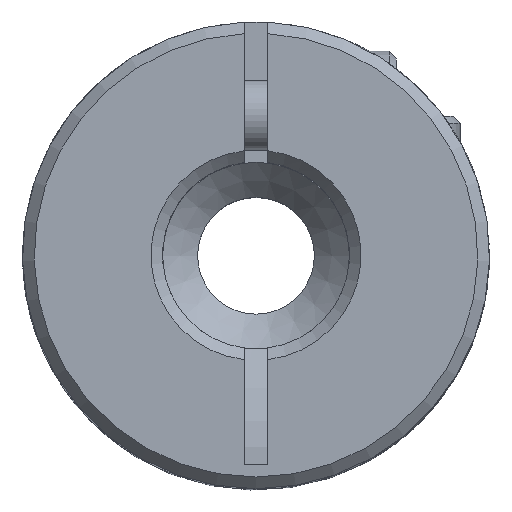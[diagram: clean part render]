
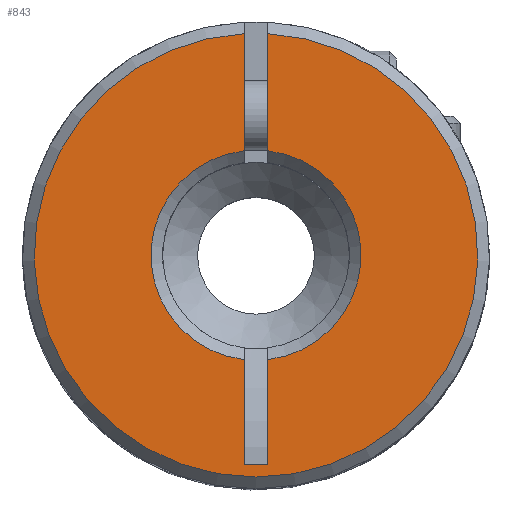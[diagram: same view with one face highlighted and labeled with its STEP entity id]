
A CAD part, top view. The second image highlights one B-rep face of the part: STEP entity #843.
In plain terms, the highlighted planar face has unit normal (0, 0, 1) as drawn and (0, 0, -1) by its records, which use the part's own axes.
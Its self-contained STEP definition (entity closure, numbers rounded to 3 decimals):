
#843=ADVANCED_FACE('',(#1698),#1700,.F.);
#1698=FACE_BOUND('',#1699,.T.);
#1699=EDGE_LOOP('',(#2272,#2273,#2274,#2275,#2276,#2277,#2278,#2279));
#1700=PLANE('',#1701);
#1701=AXIS2_PLACEMENT_3D('',#1702,#1703,#1704);
#1702=CARTESIAN_POINT('',(0.,0.,0.));
#1703=DIRECTION('',(0.,0.,1.));
#1704=DIRECTION('',(1.,0.,0.));
#2272=ORIENTED_EDGE('',*,*,#2585,.F.);
#2273=ORIENTED_EDGE('',*,*,#2584,.T.);
#2274=ORIENTED_EDGE('',*,*,#2586,.T.);
#2275=ORIENTED_EDGE('',*,*,#2587,.T.);
#2276=ORIENTED_EDGE('',*,*,#2588,.T.);
#2277=ORIENTED_EDGE('',*,*,#2589,.T.);
#2278=ORIENTED_EDGE('',*,*,#2590,.T.);
#2279=ORIENTED_EDGE('',*,*,#2591,.T.);
#2584=EDGE_CURVE('',#2896,#2902,#2904,.T.);
#2585=EDGE_CURVE('',#2896,#2905,#2906,.T.);
#2586=EDGE_CURVE('',#2902,#2907,#2908,.T.);
#2587=EDGE_CURVE('',#2907,#2909,#2910,.T.);
#2588=EDGE_CURVE('',#2909,#2911,#2912,.F.);
#2589=EDGE_CURVE('',#2911,#2913,#2914,.F.);
#2590=EDGE_CURVE('',#2913,#2915,#2916,.T.);
#2591=EDGE_CURVE('',#2915,#2905,#2917,.F.);
#2896=VERTEX_POINT('',#4220);
#2902=VERTEX_POINT('',#4234);
#2904=LINE('',#4240,#4241);
#2905=VERTEX_POINT('',#4243);
#2906=CIRCLE('',#4244,9.5);
#2907=VERTEX_POINT('',#4248);
#2908=CIRCLE('',#4249,4.5);
#2909=VERTEX_POINT('',#4253);
#2910=LINE('',#4254,#4255);
#2911=VERTEX_POINT('',#4257);
#2912=LINE('',#4258,#4259);
#2913=VERTEX_POINT('',#4261);
#2914=LINE('',#4262,#4263);
#2915=VERTEX_POINT('',#4265);
#2916=CIRCLE('',#4266,4.5);
#2917=LINE('',#4270,#4271);
#4220=CARTESIAN_POINT('',(9.487,0.5,0.));
#4234=CARTESIAN_POINT('',(4.472,0.5,0.));
#4240=CARTESIAN_POINT('',(9.487,0.5,0.));
#4241=VECTOR('',#4242,1.);
#4242=DIRECTION('',(-1.,0.,0.));
#4243=CARTESIAN_POINT('',(9.487,-0.5,0.));
#4244=AXIS2_PLACEMENT_3D('',#4245,#4246,#4247);
#4245=CARTESIAN_POINT('',(0.,0.,0.));
#4246=DIRECTION('',(0.,-0.,1.));
#4247=DIRECTION('',(0.999,0.053,0.));
#4248=CARTESIAN_POINT('',(-4.472,0.5,0.));
#4249=AXIS2_PLACEMENT_3D('',#4250,#4251,#4252);
#4250=CARTESIAN_POINT('',(0.,0.,0.));
#4251=DIRECTION('',(0.,-0.,1.));
#4252=DIRECTION('',(0.994,0.111,0.));
#4253=CARTESIAN_POINT('',(-8.972,0.5,0.));
#4254=CARTESIAN_POINT('',(-4.472,0.5,0.));
#4255=VECTOR('',#4256,1.);
#4256=DIRECTION('',(-1.,0.,0.));
#4257=CARTESIAN_POINT('',(-8.972,-0.5,0.));
#4258=CARTESIAN_POINT('',(-8.972,-0.5,0.));
#4259=VECTOR('',#4260,1.);
#4260=DIRECTION('',(0.,1.,0.));
#4261=CARTESIAN_POINT('',(-4.472,-0.5,0.));
#4262=CARTESIAN_POINT('',(-4.472,-0.5,0.));
#4263=VECTOR('',#4264,1.);
#4264=DIRECTION('',(-1.,0.,0.));
#4265=CARTESIAN_POINT('',(4.472,-0.5,0.));
#4266=AXIS2_PLACEMENT_3D('',#4267,#4268,#4269);
#4267=CARTESIAN_POINT('',(0.,0.,0.));
#4268=DIRECTION('',(-0.,0.,1.));
#4269=DIRECTION('',(-0.994,-0.111,0.));
#4270=CARTESIAN_POINT('',(9.487,-0.5,0.));
#4271=VECTOR('',#4272,1.);
#4272=DIRECTION('',(-1.,0.,0.));
